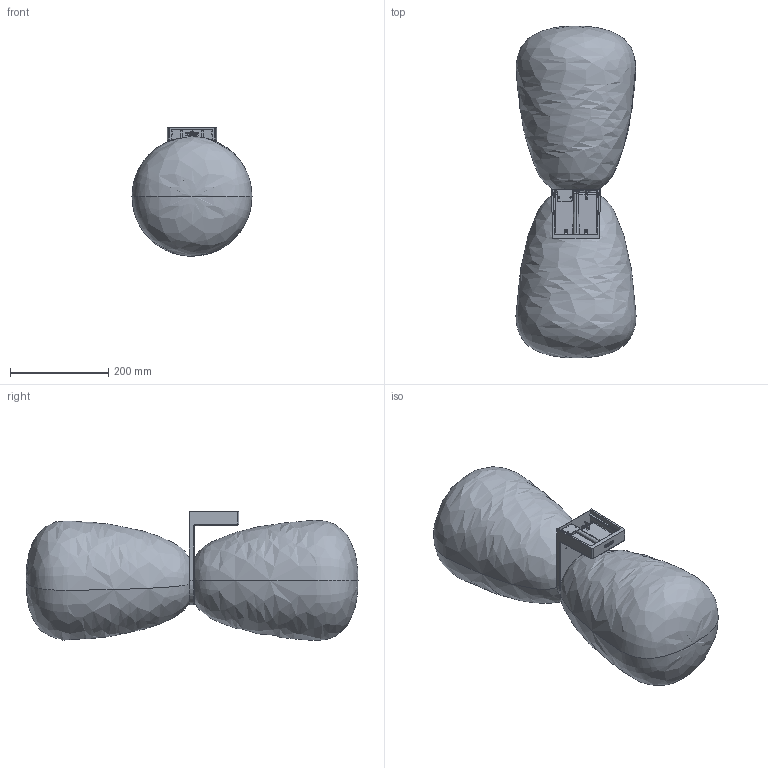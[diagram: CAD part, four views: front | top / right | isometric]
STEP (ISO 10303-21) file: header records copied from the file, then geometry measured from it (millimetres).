
FILE_DESCRIPTION (( 'STEP AP214' ), '1' );
FILE_NAME ('244_1-DOPPIA_W_PL_3D.STEP', '2021-05-04T08:52:06', ( '' ), ( '' ), 'SwSTEP 2.0', 'SolidWorks 2021', '' );
FILE_SCHEMA (( 'AUTOMOTIVE_DESIGN' ));
Length unit declared in the file: millimetre
Products named in the file (1): 244_1-DOPPIA_W_PL_3D
Bounding box: 244.34 x 675.11 x 262.15 mm (x, y, z)
Volume: 2528123.5 mm3; surface area: 1087564.5 mm2
Topology: 6 solids, 6 shells, 1135 faces, 2746 edges, 1580 vertices
Faces by surface type: bspline 335, cylinder 275, plane 259, torus 150, cone 88, sphere 28
Entity records: 53436 total; most frequent: CARTESIAN_POINT 17115, ORIENTED_EDGE 5332, DIRECTION 4563, EDGE_CURVE 2666, AXIS2_PLACEMENT_3D 1807, VERTEX_POINT 1580, EDGE_LOOP 1206, UNCERTAINTY_MEASURE_WITH_UNIT 1143
